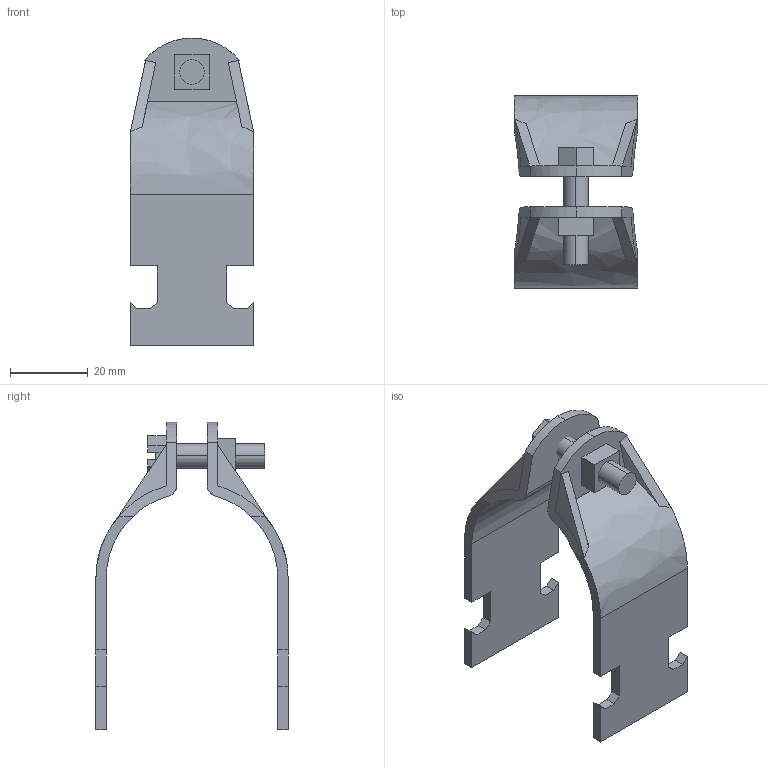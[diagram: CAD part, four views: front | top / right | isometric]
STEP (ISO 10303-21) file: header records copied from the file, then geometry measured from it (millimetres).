
FILE_DESCRIPTION(('TurboCAD Mac Pro'),'Build 980');
FILE_NAME('P1215.stp',' ',(''),(''),'ACIS Interop','IMSI','TurboCAD Mac Pro BY IMSI, INCORPORATED');
FILE_SCHEMA(('automotive_design'));
Length unit declared in the file: inch
Products named in the file (5): 1; 2; 3; 4; 5
Bounding box: 31.75 x 49.59 x 79.37 mm (x, y, z)
Volume: 15007.9 mm3; surface area: 12795.5 mm2
Topology: 4 solids, 4 shells, 107 faces, 282 edges, 184 vertices
Faces by surface type: plane 85, bspline 22
Entity records: 4567 total; most frequent: CARTESIAN_POINT 1040, ORIENTED_EDGE 564, DIRECTION 398, EDGE_CURVE 282, LINE 218, VECTOR 218, VERTEX_POINT 184, STYLED_ITEM 123
